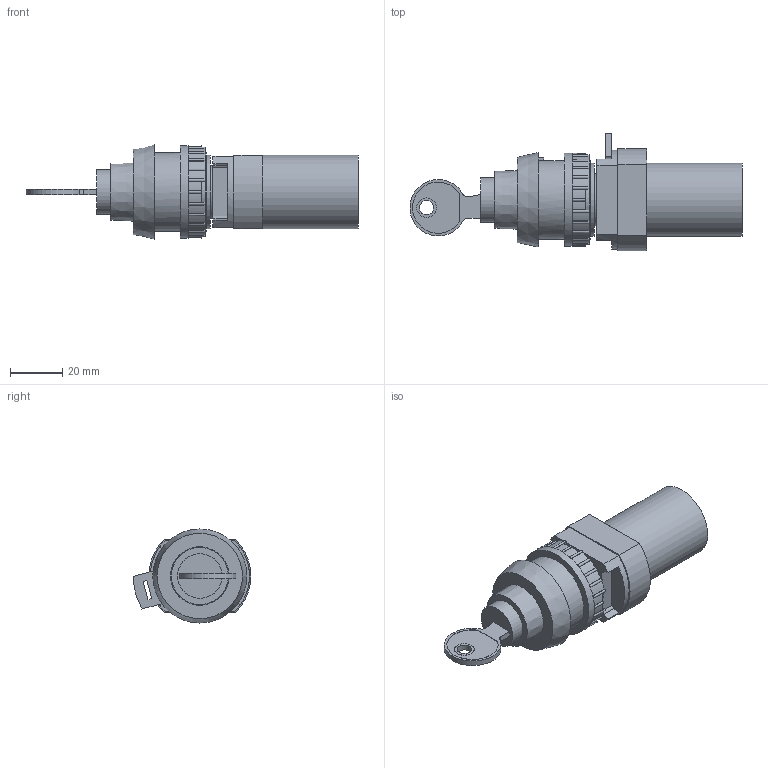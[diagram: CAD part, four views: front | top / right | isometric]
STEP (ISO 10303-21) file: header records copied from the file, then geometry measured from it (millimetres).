
FILE_DESCRIPTION (( 'STEP AP214' ), '1' );
FILE_NAME ('18-T-30-014---T-30-510_Airtec.step', '2018-11-15T13:06:12', ( '' ), ( '' ), 'SwSTEP 2.0', 'SolidWorks 2010', '' );
FILE_SCHEMA (( 'AUTOMOTIVE_DESIGN' ));
Length unit declared in the file: millimetre
Products named in the file (3): T-30-510-Airtec; 18-T-30-014-Airtec; 18-T-30-014---T-30-510_Airtec
Assembly tree (2 placements, depth 2):
  18-T-30-014---T-30-510_Airtec
    T-30-510-Airtec
    18-T-30-014-Airtec
Bounding box: 126.97 x 45 x 36 mm (x, y, z)
Volume: 67214.5 mm3; surface area: 17707.8 mm2
Topology: 2 solids, 2 shells, 371 faces, 999 edges, 653 vertices
Faces by surface type: plane 223, cylinder 140, cone 8
Full cylindrical faces by diameter (mm): 3.9 x1, 4.134 x5, 5.5 x1, 7.5 x2, 16 x1, 17 x1, 20 x1, 28 x2, 30 x2, 35.5 x1
Entity records: 11560 total; most frequent: DIRECTION 2068, CARTESIAN_POINT 1979, ORIENTED_EDGE 1924, EDGE_CURVE 962, AXIS2_PLACEMENT_3D 730, VERTEX_POINT 641, LINE 608, VECTOR 608
